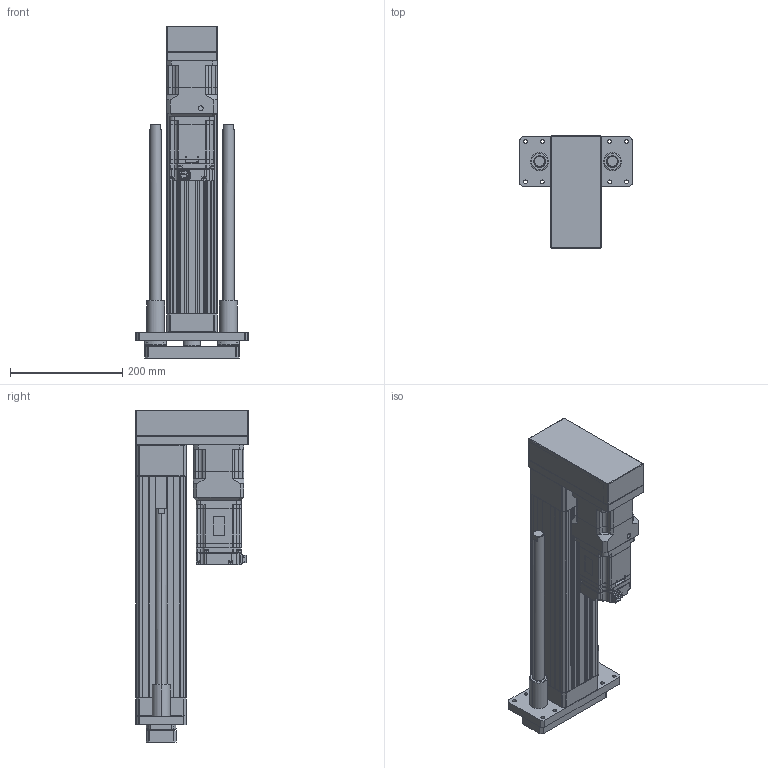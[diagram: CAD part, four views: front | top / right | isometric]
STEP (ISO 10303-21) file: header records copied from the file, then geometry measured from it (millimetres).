
FILE_DESCRIPTION (( 'STEP AP203' ), '1' );
FILE_NAME ('ANS090H-GP250-05(10)(25)-W75G05.STEP', '2019-03-18T03:02:36', ( 'user' ), ( '' ), 'SwSTEP 2.0', 'SolidWorks 2013', '' );
FILE_SCHEMA (( 'CONFIG_CONTROL_DESIGN' ));
Length unit declared in the file: millimetre
Products named in the file (5): SGMJV_08A_A21; AB090-005-S1-P2[YASKAWA SGMJV08A]; ANS090H-GP250-05(10)(25)-W75G05; ANS090H GP250 VER2; ANS090 ROD ST250-G
Assembly tree (4 placements, depth 2):
  ANS090H-GP250-05(10)(25)-W75G05
    ANS090H GP250 VER2
    ANS090 ROD ST250-G
    SGMJV_08A_A21
    AB090-005-S1-P2[YASKAWA SGMJV08A]
Bounding box: 200 x 200 x 592 mm (x, y, z)
Volume: 3919501.2 mm3; surface area: 793748.2 mm2
Topology: 3 solids, 14 shells, 1545 faces, 4030 edges, 2588 vertices
Faces by surface type: plane 828, cylinder 529, cone 164, bspline 12, sphere 8, torus 4
Entity records: 48188 total; most frequent: CARTESIAN_POINT 9040, DIRECTION 8191, ORIENTED_EDGE 7932, EDGE_CURVE 4010, AXIS2_PLACEMENT_3D 2779, VECTOR 2633, LINE 2633, VERTEX_POINT 2588
